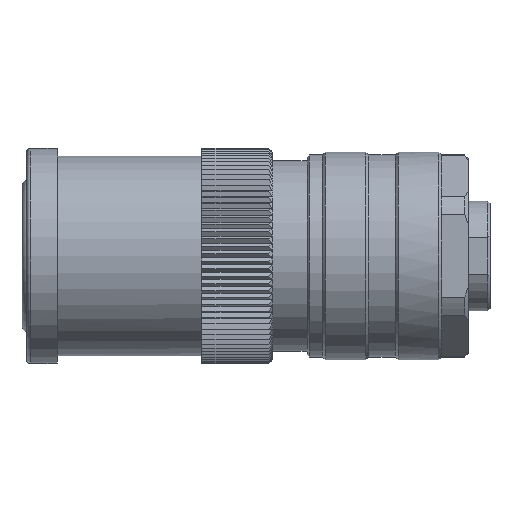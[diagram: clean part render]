
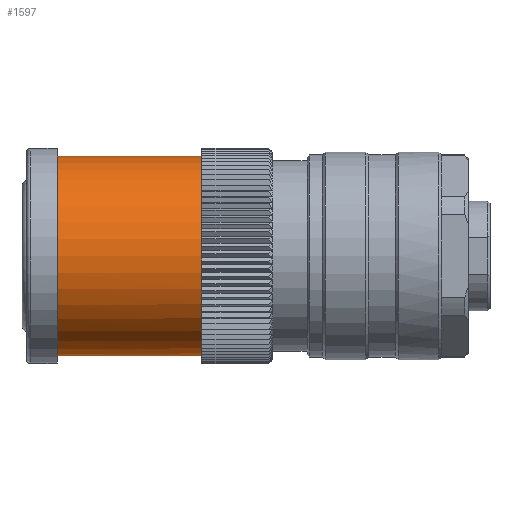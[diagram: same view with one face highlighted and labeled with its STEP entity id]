
A CAD part, top view. The second image highlights one B-rep face of the part: STEP entity #1597.
In plain terms, the highlighted cylindrical face has radius 13 mm (diameter 26 mm), a full revolution.
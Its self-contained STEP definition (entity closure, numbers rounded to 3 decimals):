
#592=B_SPLINE_CURVE_WITH_KNOTS('',3,(#15255,#15256,#15257,#15258,#15259,
#15260,#15261,#15262,#15263,#15264,#15265,#15266,#15267,#15268,#15269,#15270,
#15271,#15272,#15273,#15274,#15275,#15276,#15277,#15278,#15279,#15280,#15281,
#15282,#15283,#15284),.UNSPECIFIED.,.F.,.F.,(4,2,2,2,2,2,2,2,2,2,2,2,2,2,
4),(0.,0.063,0.125,0.188,0.25,0.313,0.375,0.5,0.625,0.688,0.75,0.813,
0.875,0.938,1.),.UNSPECIFIED.);
#648=CYLINDRICAL_SURFACE('',#9309,13.);
#1597=ADVANCED_FACE('',(#2075,#2076),#648,.T.);
#2075=FACE_BOUND('',#2647,.T.);
#2076=FACE_BOUND('',#2648,.T.);
#2647=EDGE_LOOP('',(#6074));
#2648=EDGE_LOOP('',(#6075,#6076));
#6074=ORIENTED_EDGE('',*,*,#7743,.T.);
#6075=ORIENTED_EDGE('',*,*,#8127,.F.);
#6076=ORIENTED_EDGE('',*,*,#8128,.T.);
#6751=VERTEX_POINT('',#14464);
#6953=VERTEX_POINT('',#15253);
#6954=VERTEX_POINT('',#15254);
#7743=EDGE_CURVE('',#6751,#6751,#8474,.T.);
#8127=EDGE_CURVE('',#6953,#6954,#8481,.T.);
#8128=EDGE_CURVE('',#6953,#6954,#592,.T.);
#8474=CIRCLE('',#9115,13.);
#8481=CIRCLE('',#9308,13.);
#9115=AXIS2_PLACEMENT_3D('',#14463,#10748,#10749);
#9308=AXIS2_PLACEMENT_3D('',#15252,#11508,#11509);
#9309=AXIS2_PLACEMENT_3D('',#15285,#11510,#11511);
#10748=DIRECTION('',(-1.,0.,0.));
#10749=DIRECTION('',(0.,0.,1.));
#11508=DIRECTION('',(-1.,0.,0.));
#11509=DIRECTION('',(0.,1.,0.));
#11510=DIRECTION('',(-1.,0.,0.));
#11511=DIRECTION('',(0.,1.,0.));
#14463=CARTESIAN_POINT('',(-5.35,0.,0.));
#14464=CARTESIAN_POINT('',(-5.35,0.,13.));
#15252=CARTESIAN_POINT('',(-24.15,0.,0.));
#15253=CARTESIAN_POINT('',(-24.15,-7.012,-10.947));
#15254=CARTESIAN_POINT('',(-24.15,7.012,-10.947));
#15255=CARTESIAN_POINT('',(-24.15,-7.012,-10.947));
#15256=CARTESIAN_POINT('',(-23.494,-7.688,-10.514));
#15257=CARTESIAN_POINT('',(-22.767,-8.252,-10.064));
#15258=CARTESIAN_POINT('',(-21.137,-9.184,-9.222));
#15259=CARTESIAN_POINT('',(-20.238,-9.545,-8.832));
#15260=CARTESIAN_POINT('',(-18.279,-9.986,-8.331));
#15261=CARTESIAN_POINT('',(-17.221,-10.054,-8.243));
#15262=CARTESIAN_POINT('',(-15.184,-9.852,-8.484));
#15263=CARTESIAN_POINT('',(-14.209,-9.587,-8.796));
#15264=CARTESIAN_POINT('',(-12.458,-8.833,-9.553));
#15265=CARTESIAN_POINT('',(-11.654,-8.335,-10.004));
#15266=CARTESIAN_POINT('',(-10.231,-7.154,-10.879));
#15267=CARTESIAN_POINT('',(-9.594,-6.459,-11.316));
#15268=CARTESIAN_POINT('',(-7.981,-4.087,-12.465));
#15269=CARTESIAN_POINT('',(-7.321,-2.107,-12.995));
#15270=CARTESIAN_POINT('',(-7.307,2.044,-13.005));
#15271=CARTESIAN_POINT('',(-7.965,4.05,-12.478));
#15272=CARTESIAN_POINT('',(-9.571,6.432,-11.332));
#15273=CARTESIAN_POINT('',(-10.208,7.132,-10.894));
#15274=CARTESIAN_POINT('',(-11.638,8.324,-10.013));
#15275=CARTESIAN_POINT('',(-12.425,8.816,-9.569));
#15276=CARTESIAN_POINT('',(-14.194,9.584,-8.801));
#15277=CARTESIAN_POINT('',(-15.164,9.847,-8.488));
#15278=CARTESIAN_POINT('',(-17.2,10.054,-8.243));
#15279=CARTESIAN_POINT('',(-18.258,9.988,-8.328));
#15280=CARTESIAN_POINT('',(-20.217,9.552,-8.825));
#15281=CARTESIAN_POINT('',(-21.117,9.193,-9.213));
#15282=CARTESIAN_POINT('',(-22.753,8.262,-10.056));
#15283=CARTESIAN_POINT('',(-23.493,7.688,-10.514));
#15284=CARTESIAN_POINT('',(-24.15,7.012,-10.947));
#15285=CARTESIAN_POINT('',(-11.9,0.,0.));
